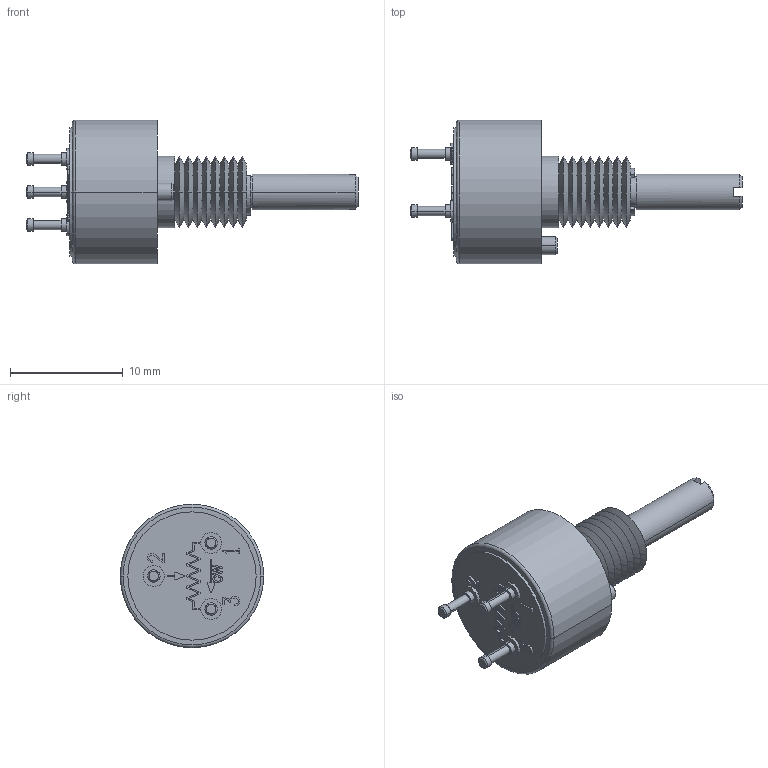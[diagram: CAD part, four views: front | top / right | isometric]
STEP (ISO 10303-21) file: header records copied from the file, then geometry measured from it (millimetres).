
FILE_DESCRIPTION(('Creo Elements/Direct Modeling STEP Export'),'2;1');
FILE_NAME('140_(3D_MODEL).stp','2018-09-12T10:49:13',(''),(''),'Creo Elements/Direct Modeling STEP processor for AP214 (Solid Model)','Creo Elements/Direct Modeling 18.1D 22-Jun-2013 (C) Parametric Technology GmbH','');
FILE_SCHEMA(('AUTOMOTIVE_DESIGN { 1 0 10303 214 1 1 1 1 }'));
Length unit declared in the file: millimetre
Products named in the file (1): 140
Bounding box: 29.39 x 12.7 x 12.7 mm (x, y, z)
Volume: 1268.3 mm3; surface area: 999.8 mm2
Topology: 1 solids, 1 shells, 396 faces, 1077 edges, 709 vertices
Faces by surface type: plane 288, cylinder 64, cone 42, torus 2
Entity records: 15075 total; most frequent: ORIENTED_EDGE 2154, CARTESIAN_POINT 2150, DIRECTION 1902, EDGE_CURVE 1077, VECTOR 876, LINE 876, VERTEX_POINT 709, AXIS2_PLACEMENT_3D 513
